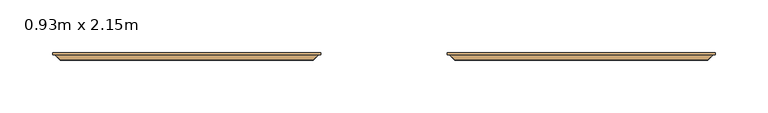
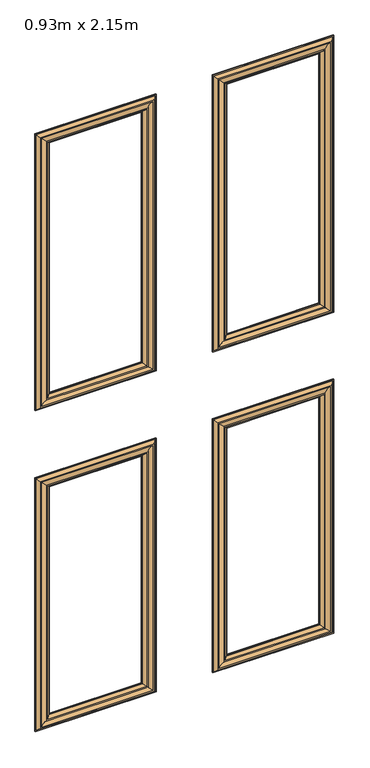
"""IFC4 building model written with IfcOpenShell, lengths in millimetres: door geometry, Entrée - 01 : 0.93m x 2.15m."""

from ifc_helpers import new_model, si_unit, frame, origin, place, context, project, spatial, polyline, ellipse_curve, source, transform, mapped, element, save
from ifc_brep_helpers import plane_surface, revolved_surface, advanced_brep


def door_0_93m_x_2_15m_05d205f4(model_context):
    return source(origin(), model_context, "Body", "AdvancedBrep", [
        advanced_brep(
        [(315.0, -167.2546167, 149.9942165), (315.0, -165.2546167, 149.9942165), (315.0, -165.2546167, 716.6666667), (315.0, -167.2546167, 716.6666667), (307.9088796, -172.2546167, 157.0853369), (312.851518, -167.2546167, 152.1426985), (312.851518, -167.2546167, 714.5181846), (307.9088796, -172.2546167, 709.5755462), (295.0, -172.2546167, 169.9942165), (305.0, -172.2546167, 159.9942165), (305.0, -172.2546167, 706.6666667), (295.0, -172.2546167, 696.6666667), (286.9651836, -167.2546167, 178.0290328), (292.0232109, -172.2546167, 172.9710056), (292.0232109, -172.2546167, 693.6898776), (286.9651836, -167.2546167, 688.6318503), (285.0, -165.2546167, 179.9942165), (285.0, -167.2546167, 179.9942165), (285.0, -167.2546167, 686.6666667), (285.0, -165.2546167, 686.6666667), (60.0, -165.2546167, 716.6666667), (60.0, -167.2546167, 716.6666667), (62.148482, -167.2546167, 714.5181846), (67.0911204, -172.2546167, 709.5755462), (70.0, -172.2546167, 706.6666667), (80.0, -172.2546167, 696.6666667), (82.9767891, -172.2546167, 693.6898776), (88.0348164, -167.2546167, 688.6318503), (90.0, -167.2546167, 686.6666667), (90.0, -165.2546167, 686.6666667), (60.0, -165.2546167, 149.9942165), (60.0, -167.2546167, 149.9942165), (62.148482, -167.2546167, 152.1426985), (67.0911204, -172.2546167, 157.0853369), (70.0, -172.2546167, 159.9942165), (80.0, -172.2546167, 169.9942165), (82.9767891, -172.2546167, 172.9710056), (88.0348164, -167.2546167, 178.0290328), (90.0, -167.2546167, 179.9942165), (90.0, -165.2546167, 179.9942165)],
        [
            (0, 1),
            (1, 2),
            (2, 3),
            (3, 0),
            (4, 5),
            (5, 6),
            (6, 7),
            (7, 4),
            (8, 9, ellipse_curve(frame((300.0, -177.5042909, 164.9942165), z_axis=(-0.7071067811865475, 0.0, -0.7071067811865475), x_axis=(-0.7071067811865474, 0.0, 0.7071067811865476)), 10.2527146, 7.249764)),
            (9, 10),
            (10, 11, ellipse_curve(frame((300.0, -177.5042909, 701.6666667), z_axis=(-0.7071067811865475, 0.0, 0.7071067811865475), x_axis=(0.7071067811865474, 0.0, 0.7071067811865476)), 10.2527146, 7.249764)),
            (11, 8),
            (12, 13),
            (13, 14),
            (14, 15),
            (15, 12),
            (16, 17),
            (17, 18),
            (18, 19),
            (19, 16),
            (2, 20),
            (20, 21),
            (21, 3),
            (6, 22),
            (22, 23),
            (23, 7),
            (10, 24),
            (24, 25, ellipse_curve(frame((75.0, -177.5042909, 701.6666667), z_axis=(-0.7071067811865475, 0.0, -0.7071067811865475), x_axis=(-0.7071067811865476, 0.0, 0.7071067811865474)), 10.2527146, 7.249764)),
            (25, 11),
            (14, 26),
            (26, 27),
            (27, 15),
            (18, 28),
            (28, 29),
            (29, 19),
            (20, 30),
            (30, 31),
            (31, 21),
            (22, 32),
            (32, 33),
            (33, 23),
            (24, 34),
            (34, 35, ellipse_curve(frame((75.0, -177.5042909, 164.9942165), z_axis=(0.7071067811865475, 0.0, -0.7071067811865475), x_axis=(-0.7071067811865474, 0.0, -0.7071067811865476)), 10.2527146, 7.249764)),
            (35, 25),
            (26, 36),
            (36, 37),
            (37, 27),
            (28, 38),
            (38, 39),
            (39, 29),
            (1, 30),
            (39, 16),
            (0, 31),
            (5, 32),
            (4, 33),
            (9, 34),
            (8, 35),
            (13, 36),
            (12, 37),
            (17, 38),
        ],
        [
            plane_surface(frame((315.0, -165.2546167, 149.9942165), z_axis=(1.0, 0.0, 0.0), x_axis=(0.0, 0.0, 1.0))),
            plane_surface(frame((312.851518, -167.2546167, 152.1426985), z_axis=(0.7111744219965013, -0.7030156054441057, 0.0), x_axis=(0.0, 0.0, 1.0))),
            revolved_surface(polyline([(307.249764, -177.5042909, 708.9164307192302), (307.249764, -177.5042909, 157.74445248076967)]), (300.0, -177.5042909, 149.9942165), (0.0, 0.0, 1.0)),
            plane_surface(frame((292.0232109, -172.2546167, 172.9710056), z_axis=(-0.7030156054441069, -0.7111744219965, 0.0), x_axis=(0.0, 0.0, 1.0))),
            plane_surface(frame((285.0, -167.2546167, 179.9942165), z_axis=(-1.0, 0.0, 0.0), x_axis=(0.0, 0.0, 1.0))),
            plane_surface(frame((315.0, -165.2546167, 716.6666667), z_axis=(0.0, 0.0, 1.0), x_axis=(-1.0, 0.0, 0.0))),
            plane_surface(frame((312.851518, -167.2546167, 714.5181846), z_axis=(0.0, -0.7030156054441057, 0.7111744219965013), x_axis=(-1.0, 0.0, 0.0))),
            revolved_surface(polyline([(67.75023598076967, -177.5042909, 708.9164307), (307.2497640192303, -177.5042909, 708.9164307)]), (315.0, -177.5042909, 701.6666667), (-1.0, 0.0, 0.0)),
            plane_surface(frame((292.0232109, -172.2546167, 693.6898776), z_axis=(0.0, -0.7111744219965, -0.7030156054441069), x_axis=(-1.0, 0.0, 0.0))),
            plane_surface(frame((285.0, -167.2546167, 686.6666667), z_axis=(0.0, 0.0, -1.0), x_axis=(-1.0, 0.0, 0.0))),
            plane_surface(frame((60.0, -165.2546167, 716.6666667), z_axis=(-1.0, 0.0, 0.0), x_axis=(0.0, 0.0, -1.0))),
            plane_surface(frame((62.148482, -167.2546167, 714.5181846), z_axis=(-0.7111744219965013, -0.7030156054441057, 0.0), x_axis=(0.0, 0.0, -1.0))),
            revolved_surface(polyline([(67.750236, -177.5042909, 157.74445248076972), (67.750236, -177.5042909, 708.9164307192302)]), (75.0, -177.5042909, 716.6666667), (0.0, 0.0, -1.0)),
            plane_surface(frame((82.9767891, -172.2546167, 693.6898776), z_axis=(0.7030156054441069, -0.7111744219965, 0.0), x_axis=(0.0, 0.0, -1.0))),
            plane_surface(frame((90.0, -167.2546167, 686.6666667), z_axis=(1.0, 0.0, 0.0), x_axis=(0.0, 0.0, -1.0))),
            plane_surface(frame((90.0, -165.2546167, 179.9942165), z_axis=(0.0, 1.0, 0.0), x_axis=(1.0, 0.0, 0.0))),
            plane_surface(frame((60.0, -165.2546167, 149.9942165), z_axis=(0.0, 0.0, -1.0), x_axis=(1.0, 0.0, 0.0))),
            plane_surface(frame((60.0, -167.2546167, 149.9942165), z_axis=(0.0, -1.0, 0.0), x_axis=(1.0, 0.0, 0.0))),
            plane_surface(frame((62.148482, -167.2546167, 152.1426985), z_axis=(0.0, -0.7030156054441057, -0.7111744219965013), x_axis=(1.0, 0.0, 0.0))),
            plane_surface(frame((67.0911204, -172.2546167, 157.0853369), z_axis=(0.0, -1.0, 0.0), x_axis=(1.0, 0.0, 0.0))),
            revolved_surface(polyline([(307.2497640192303, -177.5042909, 157.7444525), (67.75023598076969, -177.5042909, 157.7444525)]), (60.0, -177.5042909, 164.9942165), (1.0, 0.0, 0.0)),
            plane_surface(frame((80.0, -172.2546167, 169.9942165), z_axis=(0.0, -1.0, 0.0), x_axis=(1.0, 0.0, 0.0))),
            plane_surface(frame((82.9767891, -172.2546167, 172.9710056), z_axis=(0.0, -0.7111744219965, 0.7030156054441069), x_axis=(1.0, 0.0, 0.0))),
            plane_surface(frame((88.0348164, -167.2546167, 178.0290328), z_axis=(0.0, -1.0, 0.0), x_axis=(1.0, 0.0, 0.0))),
            plane_surface(frame((90.0, -167.2546167, 179.9942165), z_axis=(0.0, 0.0, 1.0), x_axis=(1.0, 0.0, 0.0))),
        ],
        [
            (0, [[1, 2, 3, 4]]),
            (1, [[5, 6, 7, 8]]),
            (2, [[9, 10, 11, 12]]),
            (3, [[13, 14, 15, 16]]),
            (4, [[17, 18, 19, 20]]),
            (5, [[-3, 21, 22, 23]]),
            (6, [[-7, 24, 25, 26]]),
            (7, [[-11, 27, 28, 29]]),
            (8, [[-15, 30, 31, 32]]),
            (9, [[-19, 33, 34, 35]]),
            (10, [[-22, 36, 37, 38]]),
            (11, [[-25, 39, 40, 41]]),
            (12, [[-28, 42, 43, 44]]),
            (13, [[-31, 45, 46, 47]]),
            (14, [[-34, 48, 49, 50]]),
            (15, [[51, -36, -21, -2], [-35, -50, 52, -20]]),
            (16, [[-37, -51, -1, 53]]),
            (17, [[-23, -38, -53, -4], [54, -39, -24, -6]]),
            (18, [[-40, -54, -5, 55]]),
            (19, [[-26, -41, -55, -8], [56, -42, -27, -10]]),
            (20, [[-43, -56, -9, 57]]),
            (21, [[-29, -44, -57, -12], [58, -45, -30, -14]]),
            (22, [[-46, -58, -13, 59]]),
            (23, [[-32, -47, -59, -16], [60, -48, -33, -18]]),
            (24, [[-49, -60, -17, -52]]),
        ],
    ),
        advanced_brep(
        [(315.0, -167.2546167, 866.6666667), (315.0, -165.2546167, 866.6666667), (315.0, -165.2546167, 1485.0), (315.0, -167.2546167, 1485.0), (307.9088796, -172.2546167, 873.7577871), (312.851518, -167.2546167, 868.8151487), (312.851518, -167.2546167, 1482.851518), (307.9088796, -172.2546167, 1477.9088796), (295.0, -172.2546167, 886.6666667), (305.0, -172.2546167, 876.6666667), (305.0, -172.2546167, 1475.0), (295.0, -172.2546167, 1465.0), (286.9651836, -167.2546167, 894.701483), (292.0232109, -172.2546167, 889.6434558), (292.0232109, -172.2546167, 1462.0232109), (286.9651836, -167.2546167, 1456.9651836), (285.0, -165.2546167, 896.6666667), (285.0, -167.2546167, 896.6666667), (285.0, -167.2546167, 1455.0), (285.0, -165.2546167, 1455.0), (60.0, -165.2546167, 1485.0), (60.0, -167.2546167, 1485.0), (62.148482, -167.2546167, 1482.851518), (67.0911204, -172.2546167, 1477.9088796), (70.0, -172.2546167, 1475.0), (80.0, -172.2546167, 1465.0), (82.9767891, -172.2546167, 1462.0232109), (88.0348164, -167.2546167, 1456.9651836), (90.0, -167.2546167, 1455.0), (90.0, -165.2546167, 1455.0), (60.0, -165.2546167, 866.6666667), (60.0, -167.2546167, 866.6666667), (62.148482, -167.2546167, 868.8151487), (67.0911204, -172.2546167, 873.7577871), (70.0, -172.2546167, 876.6666667), (80.0, -172.2546167, 886.6666667), (82.9767891, -172.2546167, 889.6434558), (88.0348164, -167.2546167, 894.701483), (90.0, -167.2546167, 896.6666667), (90.0, -165.2546167, 896.6666667)],
        [
            (0, 1),
            (1, 2),
            (2, 3),
            (3, 0),
            (4, 5),
            (5, 6),
            (6, 7),
            (7, 4),
            (8, 9, ellipse_curve(frame((300.0, -177.5042909, 881.6666667), z_axis=(-0.7071067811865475, 0.0, -0.7071067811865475), x_axis=(-0.7071067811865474, 0.0, 0.7071067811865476)), 10.2527146, 7.249764)),
            (9, 10),
            (10, 11, ellipse_curve(frame((300.0, -177.5042909, 1470.0), z_axis=(-0.7071067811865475, 0.0, 0.7071067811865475), x_axis=(0.7071067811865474, 0.0, 0.7071067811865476)), 10.2527146, 7.249764)),
            (11, 8),
            (12, 13),
            (13, 14),
            (14, 15),
            (15, 12),
            (16, 17),
            (17, 18),
            (18, 19),
            (19, 16),
            (2, 20),
            (20, 21),
            (21, 3),
            (6, 22),
            (22, 23),
            (23, 7),
            (10, 24),
            (24, 25, ellipse_curve(frame((75.0, -177.5042909, 1470.0), z_axis=(-0.7071067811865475, 0.0, -0.7071067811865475), x_axis=(-0.7071067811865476, 0.0, 0.7071067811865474)), 10.2527146, 7.249764)),
            (25, 11),
            (14, 26),
            (26, 27),
            (27, 15),
            (18, 28),
            (28, 29),
            (29, 19),
            (20, 30),
            (30, 31),
            (31, 21),
            (22, 32),
            (32, 33),
            (33, 23),
            (24, 34),
            (34, 35, ellipse_curve(frame((75.0, -177.5042909, 881.6666667), z_axis=(0.7071067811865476, 0.0, -0.7071067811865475), x_axis=(-0.7071067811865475, 0.0, -0.7071067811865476)), 10.2527146, 7.249764)),
            (35, 25),
            (26, 36),
            (36, 37),
            (37, 27),
            (28, 38),
            (38, 39),
            (39, 29),
            (1, 30),
            (39, 16),
            (0, 31),
            (5, 32),
            (4, 33),
            (9, 34),
            (8, 35),
            (13, 36),
            (12, 37),
            (17, 38),
        ],
        [
            plane_surface(frame((315.0, -165.2546167, 866.6666667), z_axis=(1.0, 0.0, 0.0), x_axis=(0.0, 0.0, 1.0))),
            plane_surface(frame((312.851518, -167.2546167, 868.8151487), z_axis=(0.7111744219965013, -0.7030156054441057, 0.0), x_axis=(0.0, 0.0, 1.0))),
            revolved_surface(polyline([(307.249764, -177.5042909, 1477.2497640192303), (307.249764, -177.5042909, 874.4169026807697)]), (300.0, -177.5042909, 866.6666667), (0.0, 0.0, 1.0)),
            plane_surface(frame((292.0232109, -172.2546167, 889.6434558), z_axis=(-0.7030156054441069, -0.7111744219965, 0.0), x_axis=(0.0, 0.0, 1.0))),
            plane_surface(frame((285.0, -167.2546167, 896.6666667), z_axis=(-1.0, 0.0, 0.0), x_axis=(0.0, 0.0, 1.0))),
            plane_surface(frame((315.0, -165.2546167, 1485.0), z_axis=(0.0, 0.0, 1.0), x_axis=(-1.0, 0.0, 0.0))),
            plane_surface(frame((312.851518, -167.2546167, 1482.851518), z_axis=(0.0, -0.7030156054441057, 0.7111744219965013), x_axis=(-1.0, 0.0, 0.0))),
            revolved_surface(polyline([(67.75023598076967, -177.5042909, 1477.249764), (307.2497640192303, -177.5042909, 1477.249764)]), (315.0, -177.5042909, 1470.0), (-1.0, 0.0, 0.0)),
            plane_surface(frame((292.0232109, -172.2546167, 1462.0232109), z_axis=(0.0, -0.7111744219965, -0.7030156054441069), x_axis=(-1.0, 0.0, 0.0))),
            plane_surface(frame((285.0, -167.2546167, 1455.0), z_axis=(0.0, 0.0, -1.0), x_axis=(-1.0, 0.0, 0.0))),
            plane_surface(frame((60.0, -165.2546167, 1485.0), z_axis=(-1.0, 0.0, 0.0), x_axis=(0.0, 0.0, -1.0))),
            plane_surface(frame((62.148482, -167.2546167, 1482.851518), z_axis=(-0.7111744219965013, -0.7030156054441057, 0.0), x_axis=(0.0, 0.0, -1.0))),
            revolved_surface(polyline([(67.750236, -177.5042909, 874.4169026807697), (67.750236, -177.5042909, 1477.2497640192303)]), (75.0, -177.5042909, 1485.0), (0.0, 0.0, -1.0)),
            plane_surface(frame((82.9767891, -172.2546167, 1462.0232109), z_axis=(0.7030156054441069, -0.7111744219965, 0.0), x_axis=(0.0, 0.0, -1.0))),
            plane_surface(frame((90.0, -167.2546167, 1455.0), z_axis=(1.0, 0.0, 0.0), x_axis=(0.0, 0.0, -1.0))),
            plane_surface(frame((90.0, -165.2546167, 896.6666667), z_axis=(0.0, 1.0, 0.0), x_axis=(1.0, 0.0, 0.0))),
            plane_surface(frame((60.0, -165.2546167, 866.6666667), z_axis=(0.0, 0.0, -1.0), x_axis=(1.0, 0.0, 0.0))),
            plane_surface(frame((60.0, -167.2546167, 866.6666667), z_axis=(0.0, -1.0, 0.0), x_axis=(1.0, 0.0, 0.0))),
            plane_surface(frame((62.148482, -167.2546167, 868.8151487), z_axis=(0.0, -0.7030156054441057, -0.7111744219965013), x_axis=(1.0, 0.0, 0.0))),
            plane_surface(frame((67.0911204, -172.2546167, 873.7577871), z_axis=(0.0, -1.0, 0.0), x_axis=(1.0, 0.0, 0.0))),
            revolved_surface(polyline([(307.2497640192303, -177.5042909, 874.4169026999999), (67.75023598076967, -177.5042909, 874.4169026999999)]), (60.0, -177.5042909, 881.6666667), (1.0, 0.0, 0.0)),
            plane_surface(frame((80.0, -172.2546167, 886.6666667), z_axis=(0.0, -1.0, 0.0), x_axis=(1.0, 0.0, 0.0))),
            plane_surface(frame((82.9767891, -172.2546167, 889.6434558), z_axis=(0.0, -0.7111744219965, 0.7030156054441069), x_axis=(1.0, 0.0, 0.0))),
            plane_surface(frame((88.0348164, -167.2546167, 894.701483), z_axis=(0.0, -1.0, 0.0), x_axis=(1.0, 0.0, 0.0))),
            plane_surface(frame((90.0, -167.2546167, 896.6666667), z_axis=(0.0, 0.0, 1.0), x_axis=(1.0, 0.0, 0.0))),
        ],
        [
            (0, [[1, 2, 3, 4]]),
            (1, [[5, 6, 7, 8]]),
            (2, [[9, 10, 11, 12]]),
            (3, [[13, 14, 15, 16]]),
            (4, [[17, 18, 19, 20]]),
            (5, [[-3, 21, 22, 23]]),
            (6, [[-7, 24, 25, 26]]),
            (7, [[-11, 27, 28, 29]]),
            (8, [[-15, 30, 31, 32]]),
            (9, [[-19, 33, 34, 35]]),
            (10, [[-22, 36, 37, 38]]),
            (11, [[-25, 39, 40, 41]]),
            (12, [[-28, 42, 43, 44]]),
            (13, [[-31, 45, 46, 47]]),
            (14, [[-34, 48, 49, 50]]),
            (15, [[51, -36, -21, -2], [-35, -50, 52, -20]]),
            (16, [[-37, -51, -1, 53]]),
            (17, [[-23, -38, -53, -4], [54, -39, -24, -6]]),
            (18, [[-40, -54, -5, 55]]),
            (19, [[-26, -41, -55, -8], [56, -42, -27, -10]]),
            (20, [[-43, -56, -9, 57]]),
            (21, [[-29, -44, -57, -12], [58, -45, -30, -14]]),
            (22, [[-46, -58, -13, 59]]),
            (23, [[-32, -47, -59, -16], [60, -48, -33, -18]]),
            (24, [[-49, -60, -17, -52]]),
        ],
    ),
        advanced_brep(
        [(-60.0, -167.2546167, 866.6666667), (-60.0, -165.2546167, 866.6666667), (-60.0, -165.2546167, 1485.0), (-60.0, -167.2546167, 1485.0), (-67.0911204, -172.2546167, 873.7577871), (-62.148482, -167.2546167, 868.8151487), (-62.148482, -167.2546167, 1482.851518), (-67.0911204, -172.2546167, 1477.9088796), (-80.0, -172.2546167, 886.6666667), (-70.0, -172.2546167, 876.6666667), (-70.0, -172.2546167, 1475.0), (-80.0, -172.2546167, 1465.0), (-88.0348164, -167.2546167, 894.701483), (-82.9767891, -172.2546167, 889.6434558), (-82.9767891, -172.2546167, 1462.0232109), (-88.0348164, -167.2546167, 1456.9651836), (-90.0, -165.2546167, 896.6666667), (-90.0, -167.2546167, 896.6666667), (-90.0, -167.2546167, 1455.0), (-90.0, -165.2546167, 1455.0), (-315.0, -165.2546167, 1485.0), (-315.0, -167.2546167, 1485.0), (-312.851518, -167.2546167, 1482.851518), (-307.9088796, -172.2546167, 1477.9088796), (-305.0, -172.2546167, 1475.0), (-295.0, -172.2546167, 1465.0), (-292.0232109, -172.2546167, 1462.0232109), (-286.9651836, -167.2546167, 1456.9651836), (-285.0, -167.2546167, 1455.0), (-285.0, -165.2546167, 1455.0), (-315.0, -165.2546167, 866.6666667), (-315.0, -167.2546167, 866.6666667), (-312.851518, -167.2546167, 868.8151487), (-307.9088796, -172.2546167, 873.7577871), (-305.0, -172.2546167, 876.6666667), (-295.0, -172.2546167, 886.6666667), (-292.0232109, -172.2546167, 889.6434558), (-286.9651836, -167.2546167, 894.701483), (-285.0, -167.2546167, 896.6666667), (-285.0, -165.2546167, 896.6666667)],
        [
            (0, 1),
            (1, 2),
            (2, 3),
            (3, 0),
            (4, 5),
            (5, 6),
            (6, 7),
            (7, 4),
            (8, 9, ellipse_curve(frame((-75.0, -177.5042909, 881.6666667), z_axis=(-0.7071067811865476, 0.0, -0.7071067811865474), x_axis=(-0.7071067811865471, 0.0, 0.7071067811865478)), 10.2527146, 7.249764)),
            (9, 10),
            (10, 11, ellipse_curve(frame((-75.0, -177.5042909, 1470.0), z_axis=(-0.7071067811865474, 0.0, 0.7071067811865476), x_axis=(0.7071067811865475, 0.0, 0.7071067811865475)), 10.2527146, 7.249764)),
            (11, 8),
            (12, 13),
            (13, 14),
            (14, 15),
            (15, 12),
            (16, 17),
            (17, 18),
            (18, 19),
            (19, 16),
            (2, 20),
            (20, 21),
            (21, 3),
            (6, 22),
            (22, 23),
            (23, 7),
            (10, 24),
            (24, 25, ellipse_curve(frame((-300.0, -177.5042909, 1470.0), z_axis=(-0.7071067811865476, 0.0, -0.7071067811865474), x_axis=(-0.7071067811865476, 0.0, 0.7071067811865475)), 10.2527146, 7.249764)),
            (25, 11),
            (14, 26),
            (26, 27),
            (27, 15),
            (18, 28),
            (28, 29),
            (29, 19),
            (20, 30),
            (30, 31),
            (31, 21),
            (22, 32),
            (32, 33),
            (33, 23),
            (24, 34),
            (34, 35, ellipse_curve(frame((-300.0, -177.5042909, 881.6666667), z_axis=(0.7071067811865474, 0.0, -0.7071067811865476), x_axis=(-0.7071067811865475, 0.0, -0.7071067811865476)), 10.2527146, 7.249764)),
            (35, 25),
            (26, 36),
            (36, 37),
            (37, 27),
            (28, 38),
            (38, 39),
            (39, 29),
            (1, 30),
            (39, 16),
            (0, 31),
            (5, 32),
            (4, 33),
            (9, 34),
            (8, 35),
            (13, 36),
            (12, 37),
            (17, 38),
        ],
        [
            plane_surface(frame((-60.0, -165.2546167, 866.6666667), z_axis=(1.0, 0.0, 0.0), x_axis=(0.0, 0.0, 1.0))),
            plane_surface(frame((-62.148482, -167.2546167, 868.8151487), z_axis=(0.7111744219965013, -0.7030156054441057, 0.0), x_axis=(0.0, 0.0, 1.0))),
            revolved_surface(polyline([(-67.750236, -177.5042909, 1477.2497640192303), (-67.750236, -177.5042909, 874.4169026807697)]), (-75.0, -177.5042909, 866.6666667), (0.0, 0.0, 1.0)),
            plane_surface(frame((-82.9767891, -172.2546167, 889.6434558), z_axis=(-0.7030156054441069, -0.7111744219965, 0.0), x_axis=(0.0, 0.0, 1.0))),
            plane_surface(frame((-90.0, -167.2546167, 896.6666667), z_axis=(-1.0, 0.0, 0.0), x_axis=(0.0, 0.0, 1.0))),
            plane_surface(frame((-60.0, -165.2546167, 1485.0), z_axis=(0.0, 0.0, 1.0), x_axis=(-1.0, 0.0, 0.0))),
            plane_surface(frame((-62.148482, -167.2546167, 1482.851518), z_axis=(0.0, -0.7030156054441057, 0.7111744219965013), x_axis=(-1.0, 0.0, 0.0))),
            revolved_surface(polyline([(-307.2497640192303, -177.5042909, 1477.249764), (-67.75023598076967, -177.5042909, 1477.249764)]), (-60.0, -177.5042909, 1470.0), (-1.0, 0.0, 0.0)),
            plane_surface(frame((-82.9767891, -172.2546167, 1462.0232109), z_axis=(0.0, -0.7111744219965, -0.7030156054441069), x_axis=(-1.0, 0.0, 0.0))),
            plane_surface(frame((-90.0, -167.2546167, 1455.0), z_axis=(0.0, 0.0, -1.0), x_axis=(-1.0, 0.0, 0.0))),
            plane_surface(frame((-315.0, -165.2546167, 1485.0), z_axis=(-1.0, 0.0, 0.0), x_axis=(0.0, 0.0, -1.0))),
            plane_surface(frame((-312.851518, -167.2546167, 1482.851518), z_axis=(-0.7111744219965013, -0.7030156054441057, 0.0), x_axis=(0.0, 0.0, -1.0))),
            revolved_surface(polyline([(-307.249764, -177.5042909, 874.4169026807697), (-307.249764, -177.5042909, 1477.2497640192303)]), (-300.0, -177.5042909, 1485.0), (0.0, 0.0, -1.0)),
            plane_surface(frame((-292.0232109, -172.2546167, 1462.0232109), z_axis=(0.7030156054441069, -0.7111744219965, 0.0), x_axis=(0.0, 0.0, -1.0))),
            plane_surface(frame((-285.0, -167.2546167, 1455.0), z_axis=(1.0, 0.0, 0.0), x_axis=(0.0, 0.0, -1.0))),
            plane_surface(frame((-285.0, -165.2546167, 896.6666667), z_axis=(0.0, 1.0, 0.0), x_axis=(1.0, 0.0, 0.0))),
            plane_surface(frame((-315.0, -165.2546167, 866.6666667), z_axis=(0.0, 0.0, -1.0), x_axis=(1.0, 0.0, 0.0))),
            plane_surface(frame((-315.0, -167.2546167, 866.6666667), z_axis=(0.0, -1.0, 0.0), x_axis=(1.0, 0.0, 0.0))),
            plane_surface(frame((-312.851518, -167.2546167, 868.8151487), z_axis=(0.0, -0.7030156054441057, -0.7111744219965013), x_axis=(1.0, 0.0, 0.0))),
            plane_surface(frame((-307.9088796, -172.2546167, 873.7577871), z_axis=(0.0, -1.0, 0.0), x_axis=(1.0, 0.0, 0.0))),
            revolved_surface(polyline([(-67.75023598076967, -177.5042909, 874.4169026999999), (-307.2497640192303, -177.5042909, 874.4169026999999)]), (-315.0, -177.5042909, 881.6666667), (1.0, 0.0, 0.0)),
            plane_surface(frame((-295.0, -172.2546167, 886.6666667), z_axis=(0.0, -1.0, 0.0), x_axis=(1.0, 0.0, 0.0))),
            plane_surface(frame((-292.0232109, -172.2546167, 889.6434558), z_axis=(0.0, -0.7111744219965, 0.7030156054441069), x_axis=(1.0, 0.0, 0.0))),
            plane_surface(frame((-286.9651836, -167.2546167, 894.701483), z_axis=(0.0, -1.0, 0.0), x_axis=(1.0, 0.0, 0.0))),
            plane_surface(frame((-285.0, -167.2546167, 896.6666667), z_axis=(0.0, 0.0, 1.0), x_axis=(1.0, 0.0, 0.0))),
        ],
        [
            (0, [[1, 2, 3, 4]]),
            (1, [[5, 6, 7, 8]]),
            (2, [[9, 10, 11, 12]]),
            (3, [[13, 14, 15, 16]]),
            (4, [[17, 18, 19, 20]]),
            (5, [[-3, 21, 22, 23]]),
            (6, [[-7, 24, 25, 26]]),
            (7, [[-11, 27, 28, 29]]),
            (8, [[-15, 30, 31, 32]]),
            (9, [[-19, 33, 34, 35]]),
            (10, [[-22, 36, 37, 38]]),
            (11, [[-25, 39, 40, 41]]),
            (12, [[-28, 42, 43, 44]]),
            (13, [[-31, 45, 46, 47]]),
            (14, [[-34, 48, 49, 50]]),
            (15, [[51, -36, -21, -2], [-35, -50, 52, -20]]),
            (16, [[-37, -51, -1, 53]]),
            (17, [[-23, -38, -53, -4], [54, -39, -24, -6]]),
            (18, [[-40, -54, -5, 55]]),
            (19, [[-26, -41, -55, -8], [56, -42, -27, -10]]),
            (20, [[-43, -56, -9, 57]]),
            (21, [[-29, -44, -57, -12], [58, -45, -30, -14]]),
            (22, [[-46, -58, -13, 59]]),
            (23, [[-32, -47, -59, -16], [60, -48, -33, -18]]),
            (24, [[-49, -60, -17, -52]]),
        ],
    ),
        advanced_brep(
        [(-60.0, -167.2546167, 150.0), (-60.0, -165.2546167, 150.0), (-60.0, -165.2546167, 716.6666667), (-60.0, -167.2546167, 716.6666667), (-67.0911204, -172.2546167, 157.0911204), (-62.148482, -167.2546167, 152.148482), (-62.148482, -167.2546167, 714.5181846), (-67.0911204, -172.2546167, 709.5755462), (-80.0, -172.2546167, 170.0), (-70.0, -172.2546167, 160.0), (-70.0, -172.2546167, 706.6666667), (-80.0, -172.2546167, 696.6666667), (-88.0348164, -167.2546167, 178.0348164), (-82.9767891, -172.2546167, 172.9767891), (-82.9767891, -172.2546167, 693.6898776), (-88.0348164, -167.2546167, 688.6318503), (-90.0, -165.2546167, 180.0), (-90.0, -167.2546167, 180.0), (-90.0, -167.2546167, 686.6666667), (-90.0, -165.2546167, 686.6666667), (-315.0, -165.2546167, 716.6666667), (-315.0, -167.2546167, 716.6666667), (-312.851518, -167.2546167, 714.5181846), (-307.9088796, -172.2546167, 709.5755462), (-305.0, -172.2546167, 706.6666667), (-295.0, -172.2546167, 696.6666667), (-292.0232109, -172.2546167, 693.6898776), (-286.9651836, -167.2546167, 688.6318503), (-285.0, -167.2546167, 686.6666667), (-285.0, -165.2546167, 686.6666667), (-315.0, -165.2546167, 150.0), (-315.0, -167.2546167, 150.0), (-312.851518, -167.2546167, 152.148482), (-307.9088796, -172.2546167, 157.0911204), (-305.0, -172.2546167, 160.0), (-295.0, -172.2546167, 170.0), (-292.0232109, -172.2546167, 172.9767891), (-286.9651836, -167.2546167, 178.0348164), (-285.0, -167.2546167, 180.0), (-285.0, -165.2546167, 180.0)],
        [
            (0, 1),
            (1, 2),
            (2, 3),
            (3, 0),
            (4, 5),
            (5, 6),
            (6, 7),
            (7, 4),
            (8, 9, ellipse_curve(frame((-75.0, -177.5042909, 165.0), z_axis=(-0.7071067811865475, 0.0, -0.7071067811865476), x_axis=(-0.7071067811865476, 0.0, 0.7071067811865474)), 10.2527146, 7.249764)),
            (9, 10),
            (10, 11, ellipse_curve(frame((-75.0, -177.5042909, 701.6666667), z_axis=(-0.7071067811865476, 0.0, 0.7071067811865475), x_axis=(0.7071067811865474, 0.0, 0.7071067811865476)), 10.2527146, 7.249764)),
            (11, 8),
            (12, 13),
            (13, 14),
            (14, 15),
            (15, 12),
            (16, 17),
            (17, 18),
            (18, 19),
            (19, 16),
            (2, 20),
            (20, 21),
            (21, 3),
            (6, 22),
            (22, 23),
            (23, 7),
            (10, 24),
            (24, 25, ellipse_curve(frame((-300.0, -177.5042909, 701.6666667), z_axis=(-0.7071067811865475, 0.0, -0.7071067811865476), x_axis=(-0.7071067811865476, 0.0, 0.7071067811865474)), 10.2527146, 7.249764)),
            (25, 11),
            (14, 26),
            (26, 27),
            (27, 15),
            (18, 28),
            (28, 29),
            (29, 19),
            (20, 30),
            (30, 31),
            (31, 21),
            (22, 32),
            (32, 33),
            (33, 23),
            (24, 34),
            (34, 35, ellipse_curve(frame((-300.0, -177.5042909, 165.0), z_axis=(0.7071067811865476, 0.0, -0.7071067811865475), x_axis=(-0.7071067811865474, 0.0, -0.7071067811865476)), 10.2527146, 7.249764)),
            (35, 25),
            (26, 36),
            (36, 37),
            (37, 27),
            (28, 38),
            (38, 39),
            (39, 29),
            (1, 30),
            (39, 16),
            (0, 31),
            (5, 32),
            (4, 33),
            (9, 34),
            (8, 35),
            (13, 36),
            (12, 37),
            (17, 38),
        ],
        [
            plane_surface(frame((-60.0, -165.2546167, 150.0), z_axis=(1.0, 0.0, 0.0), x_axis=(0.0, 0.0, 1.0))),
            plane_surface(frame((-62.148482, -167.2546167, 152.148482), z_axis=(0.7111744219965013, -0.7030156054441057, 0.0), x_axis=(0.0, 0.0, 1.0))),
            revolved_surface(polyline([(-67.750236, -177.5042909, 708.9164307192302), (-67.750236, -177.5042909, 157.75023598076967)]), (-75.0, -177.5042909, 150.0), (0.0, 0.0, 1.0)),
            plane_surface(frame((-82.9767891, -172.2546167, 172.9767891), z_axis=(-0.7030156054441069, -0.7111744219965, 0.0), x_axis=(0.0, 0.0, 1.0))),
            plane_surface(frame((-90.0, -167.2546167, 180.0), z_axis=(-1.0, 0.0, 0.0), x_axis=(0.0, 0.0, 1.0))),
            plane_surface(frame((-60.0, -165.2546167, 716.6666667), z_axis=(0.0, 0.0, 1.0), x_axis=(-1.0, 0.0, 0.0))),
            plane_surface(frame((-62.148482, -167.2546167, 714.5181846), z_axis=(0.0, -0.7030156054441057, 0.7111744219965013), x_axis=(-1.0, 0.0, 0.0))),
            revolved_surface(polyline([(-307.2497640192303, -177.5042909, 708.9164307), (-67.75023598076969, -177.5042909, 708.9164307)]), (-60.0, -177.5042909, 701.6666667), (-1.0, 0.0, 0.0)),
            plane_surface(frame((-82.9767891, -172.2546167, 693.6898776), z_axis=(0.0, -0.7111744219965, -0.7030156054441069), x_axis=(-1.0, 0.0, 0.0))),
            plane_surface(frame((-90.0, -167.2546167, 686.6666667), z_axis=(0.0, 0.0, -1.0), x_axis=(-1.0, 0.0, 0.0))),
            plane_surface(frame((-315.0, -165.2546167, 716.6666667), z_axis=(-1.0, 0.0, 0.0), x_axis=(0.0, 0.0, -1.0))),
            plane_surface(frame((-312.851518, -167.2546167, 714.5181846), z_axis=(-0.7111744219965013, -0.7030156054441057, 0.0), x_axis=(0.0, 0.0, -1.0))),
            revolved_surface(polyline([(-307.249764, -177.5042909, 157.75023598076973), (-307.249764, -177.5042909, 708.9164307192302)]), (-300.0, -177.5042909, 716.6666667), (0.0, 0.0, -1.0)),
            plane_surface(frame((-292.0232109, -172.2546167, 693.6898776), z_axis=(0.7030156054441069, -0.7111744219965, 0.0), x_axis=(0.0, 0.0, -1.0))),
            plane_surface(frame((-285.0, -167.2546167, 686.6666667), z_axis=(1.0, 0.0, 0.0), x_axis=(0.0, 0.0, -1.0))),
            plane_surface(frame((-285.0, -165.2546167, 180.0), z_axis=(0.0, 1.0, 0.0), x_axis=(1.0, 0.0, 0.0))),
            plane_surface(frame((-315.0, -165.2546167, 150.0), z_axis=(0.0, 0.0, -1.0), x_axis=(1.0, 0.0, 0.0))),
            plane_surface(frame((-315.0, -167.2546167, 150.0), z_axis=(0.0, -1.0, 0.0), x_axis=(1.0, 0.0, 0.0))),
            plane_surface(frame((-312.851518, -167.2546167, 152.148482), z_axis=(0.0, -0.7030156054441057, -0.7111744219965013), x_axis=(1.0, 0.0, 0.0))),
            plane_surface(frame((-307.9088796, -172.2546167, 157.0911204), z_axis=(0.0, -1.0, 0.0), x_axis=(1.0, 0.0, 0.0))),
            revolved_surface(polyline([(-67.75023598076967, -177.5042909, 157.750236), (-307.2497640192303, -177.5042909, 157.750236)]), (-315.0, -177.5042909, 165.0), (1.0, 0.0, 0.0)),
            plane_surface(frame((-295.0, -172.2546167, 170.0), z_axis=(0.0, -1.0, 0.0), x_axis=(1.0, 0.0, 0.0))),
            plane_surface(frame((-292.0232109, -172.2546167, 172.9767891), z_axis=(0.0, -0.7111744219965, 0.7030156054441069), x_axis=(1.0, 0.0, 0.0))),
            plane_surface(frame((-286.9651836, -167.2546167, 178.0348164), z_axis=(0.0, -1.0, 0.0), x_axis=(1.0, 0.0, 0.0))),
            plane_surface(frame((-285.0, -167.2546167, 180.0), z_axis=(0.0, 0.0, 1.0), x_axis=(1.0, 0.0, 0.0))),
        ],
        [
            (0, [[1, 2, 3, 4]]),
            (1, [[5, 6, 7, 8]]),
            (2, [[9, 10, 11, 12]]),
            (3, [[13, 14, 15, 16]]),
            (4, [[17, 18, 19, 20]]),
            (5, [[-3, 21, 22, 23]]),
            (6, [[-7, 24, 25, 26]]),
            (7, [[-11, 27, 28, 29]]),
            (8, [[-15, 30, 31, 32]]),
            (9, [[-19, 33, 34, 35]]),
            (10, [[-22, 36, 37, 38]]),
            (11, [[-25, 39, 40, 41]]),
            (12, [[-28, 42, 43, 44]]),
            (13, [[-31, 45, 46, 47]]),
            (14, [[-34, 48, 49, 50]]),
            (15, [[51, -36, -21, -2], [-35, -50, 52, -20]]),
            (16, [[-37, -51, -1, 53]]),
            (17, [[-23, -38, -53, -4], [54, -39, -24, -6]]),
            (18, [[-40, -54, -5, 55]]),
            (19, [[-26, -41, -55, -8], [56, -42, -27, -10]]),
            (20, [[-43, -56, -9, 57]]),
            (21, [[-29, -44, -57, -12], [58, -45, -30, -14]]),
            (22, [[-46, -58, -13, 59]]),
            (23, [[-32, -47, -59, -16], [60, -48, -33, -18]]),
            (24, [[-49, -60, -17, -52]]),
        ],
    ),
    ])


if __name__ == "__main__":
    model = new_model("IFC4")
    model_context = context("Model", 3, world=origin())
    ifc_project = project(units=[si_unit("LENGTHUNIT", "METRE", prefix="MILLI")], contexts=[model_context])
    site = spatial("IfcSite", under=ifc_project)
    building = spatial("IfcBuilding", under=site)
    placement = place(None, origin())
    door_0_93m_x_2_15m_shape = door_0_93m_x_2_15m_05d205f4(model_context)
    element("IfcDoor", 1, ObjectType="Entrée - 01 : 0.93m x 2.15m", at=placement, inside=building, context=model_context, shape_type="MappedRepresentation", body=[
        mapped(door_0_93m_x_2_15m_shape, transform((0.0, 0.0, 0.0), x_axis=(1.0, 0.0, 0.0), y_axis=(0.0, 1.0, 0.0), z_axis=(0.0, 0.0, 1.0))),
    ])
    save(model, "model.ifc")
